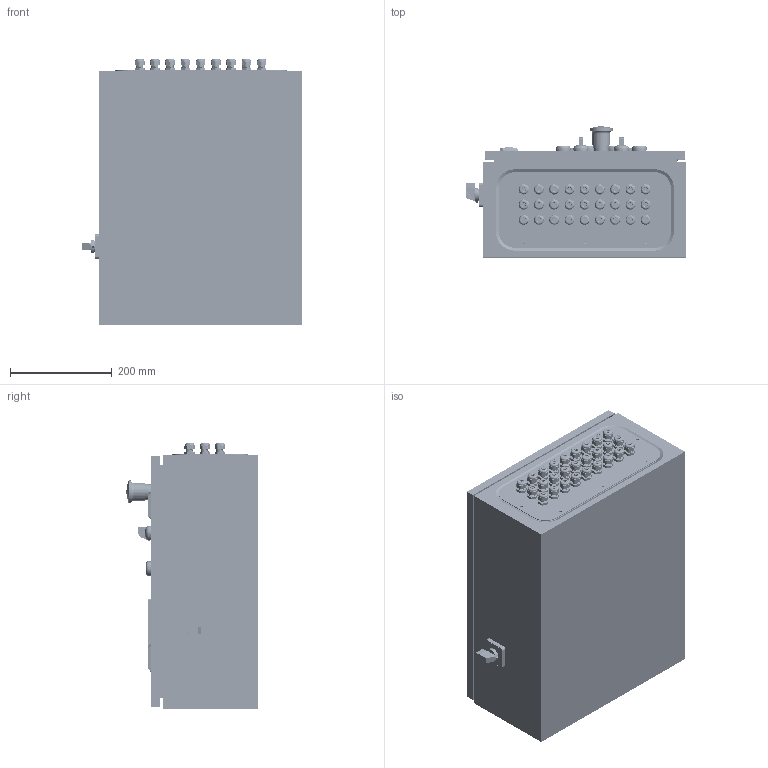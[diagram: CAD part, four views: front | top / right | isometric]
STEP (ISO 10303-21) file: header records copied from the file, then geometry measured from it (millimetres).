
FILE_DESCRIPTION((''),'2;1');
FILE_NAME('PROPUESTA3_ASM','2023-02-06T14:14:16',('Pablo'),(''),'CREO PARAMETRIC BY PTC INC, 2021284','CREO PARAMETRIC BY PTC INC, 2021284','');
FILE_SCHEMA(('CONFIG_CONTROL_DESIGN'));
Products named in the file (1111): 1259568464; 1259576624_1; 1259576624_2; 1259576624_ASM; S1_ENCLOSURE_ACCESSORIES_G-2297_ASM; 1259586688; S1_ENCLOSURE_ACCESSORIES_G-2873_ASM; S1_ENCLOSURE_ACCESSORIES_G-3838_ASM; S1_ENCLOSURE_ACCESSORIES_G-3866_ASM; S1_ENCLOSURE_ACCESSORIES_G-3894_ASM; 1259577984; S1_ENCLOSURE_ACCESSORIES_-12623_ASM; S1_ENCLOSURE_ACCESSORIES_-14494_ASM; 1259555952; 1259586144; S1_ENCLOSURE_ACCESSORIES_G-6686_ASM; 1259573632; S1_ENCLOSURE_ACCESSORIES_G-8170_ASM; 1259554864; S1_ENCLOSURE_ACCESSORIES_G-9258_ASM; S1_ENCLOSURE_ACCESSORIES_-12589_ASM; S1_DOOR__1__ASM; 1259582608; S1_FLANGE_PLATE__5__ASM; 1259581248; S1_MOUNTING_PANEL__54__ASM; S1_HOUSINGS__1__ASM; AX500400210_ASM; 7310-1_01_1_AF0; 7310-1_01_1_AF1; 7310-1_01_1_AF2; 7310-1_01_1_AF3; 7310-1_01_1_AF4; 7310-1_02_1_AF0; 7310-1_02_1_AF1; 7310-1_02_1_AF2; 7310-1_02_1_AF3; 7310-1_02_1_AF4; CAN3040_1_ASM; 7310-1_01_2_AF0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
Assembly tree (1229 placements, depth 6):
  PROPUESTA3_ASM
    AX500400210_ASM
      S1_HOUSINGS__1__ASM
        1259568464
        S1_ENCLOSURE_ACCESSORIES_G-2297_ASM
          1259576624_ASM
            1259576624_1
            1259576624_2
        S1_ENCLOSURE_ACCESSORIES_G-2873_ASM
          1259586688
        S1_ENCLOSURE_ACCESSORIES_G-3838_ASM
          1259586688
        S1_ENCLOSURE_ACCESSORIES_G-3866_ASM
          1259586688
        S1_ENCLOSURE_ACCESSORIES_G-3894_ASM
          1259586688
        S1_ENCLOSURE_ACCESSORIES_-12623_ASM
          1259577984
        S1_ENCLOSURE_ACCESSORIES_-14494_ASM
          1259577984
        S1_DOOR__1__ASM
          1259555952
          S1_ENCLOSURE_ACCESSORIES_G-6686_ASM
            1259586144
          S1_ENCLOSURE_ACCESSORIES_G-8170_ASM
            1259573632
          S1_ENCLOSURE_ACCESSORIES_G-9258_ASM
            1259554864
          S1_ENCLOSURE_ACCESSORIES_-12589_ASM
            1259554864
        S1_FLANGE_PLATE__5__ASM
          1259582608
        S1_MOUNTING_PANEL__54__ASM
          1259581248
    CAN3040_1_ASM
      7310-1_01_1_AF0
      7310-1_01_1_AF1
      7310-1_01_1_AF2
      7310-1_01_1_AF3
      7310-1_01_1_AF4
      7310-1_02_1_AF0
      7310-1_02_1_AF1
      7310-1_02_1_AF2
      7310-1_02_1_AF3
      7310-1_02_1_AF4
    CAN3040_2_ASM
      7310-1_01_2_AF0
      7310-1_01_2_AF1
      7310-1_01_2_AF2
      7310-1_02_2_AF0
      7310-1_02_2_AF1
      7310-1_02_2_AF2
    CAN3040_7_ASM
      7310-1_01_1_AF5
      7310-1_01_1_AF6
      7310-1_01_1_AF7
      7310-1_01_1_AF8
      7310-1_02_1_AF5
      7310-1_02_1_AF6
      7310-1_02_1_AF7
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Bounding box: 435 x 258.72 x 522.5 mm (x, y, z)
Volume: 5963184.2 mm3; surface area: 4631023.6 mm2
Topology: 1321 solids, 1333 shells, 53809 faces, 148687 edges, 98256 vertices
Faces by surface type: plane 35738, cylinder 13135, extrusion 2564, cone 1318, torus 630, bspline 300, sphere 124
Entity records: 1184115 total; most frequent: CARTESIAN_POINT 351491, ORIENTED_EDGE 175570, DIRECTION 159332, EDGE_CURVE 87785, VECTOR 66408, LINE 63878, VERTEX_POINT 58725, AXIS2_PLACEMENT_3D 46462
